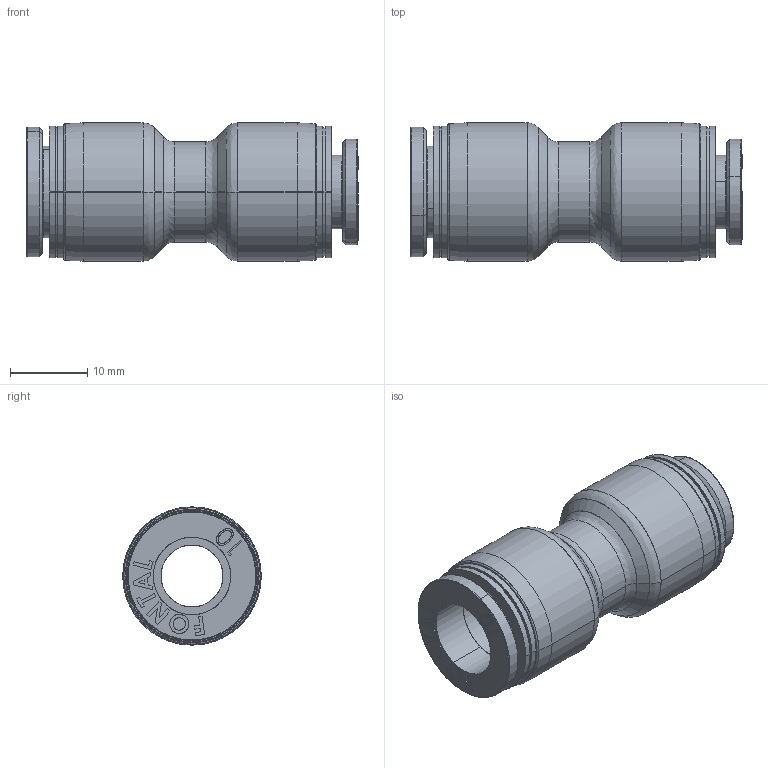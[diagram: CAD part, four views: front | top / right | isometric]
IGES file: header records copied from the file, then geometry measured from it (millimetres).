
Start section: SolidWorks IGES file using analytic representation for surfaces
Global section: file name: D:\Custom\3D繪製\ADDITIONAL\FPG\FPG10-8.IGS,1; native system: 5HSolidWorks 2014; preprocessor: SolidWorks 2014; author: Chieh_Lu; date: 160115.045859; units: millimetre
Bounding box: 42.87 x 17.85 x 17.85 mm (x, y, z)
Surface area: 4571.9 mm2 (no closed solid volume)
Topology: 0 solids, 0 shells, 250 faces, 2935 edges, 2931 vertices
Faces by surface type: bspline 200, revolution 50
